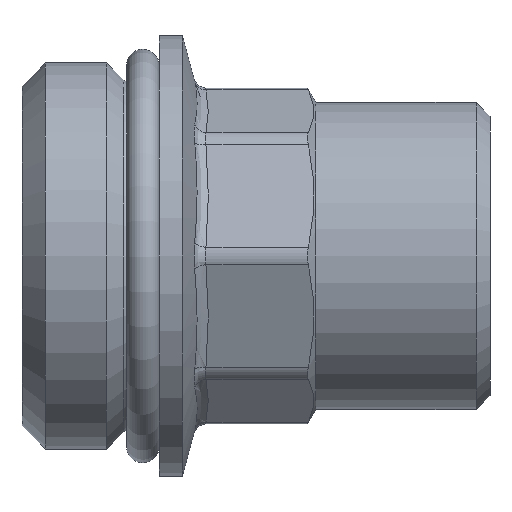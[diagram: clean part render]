
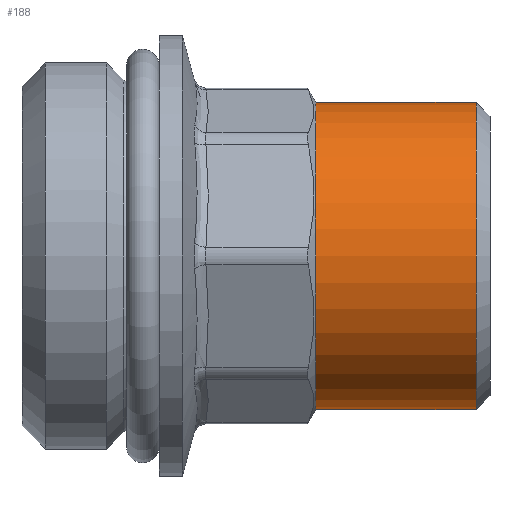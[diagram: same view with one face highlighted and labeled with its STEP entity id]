
A CAD part, left-side view. The second image highlights one B-rep face of the part: STEP entity #188.
In plain terms, the highlighted cylindrical face has radius 13.22 mm (diameter 26.441 mm), a full revolution.
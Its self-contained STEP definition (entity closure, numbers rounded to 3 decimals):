
#188=ADVANCED_FACE('',(#364,#366),#368,.T.);
#364=FACE_OUTER_BOUND('',#365,.T.);
#365=EDGE_LOOP('',(#1536));
#366=FACE_OUTER_BOUND('',#367,.T.);
#367=EDGE_LOOP('',(#1537));
#368=CYLINDRICAL_SURFACE('',#369,13.221);
#369=AXIS2_PLACEMENT_3D('',#370,#371,#372);
#370=CARTESIAN_POINT('',(0.,-11.5,0.));
#371=DIRECTION('',(0.,-1.,0.));
#372=DIRECTION('',(0.,0.,1.));
#1536=ORIENTED_EDGE('',*,*,#1734,.T.);
#1537=ORIENTED_EDGE('',*,*,#1731,.F.);
#1731=EDGE_CURVE('',#1843,#1843,#1844,.T.);
#1734=EDGE_CURVE('',#1849,#1849,#1850,.T.);
#1843=VERTEX_POINT('',#2045);
#1844=CIRCLE('',#2046,13.221);
#1849=VERTEX_POINT('',#2060);
#1850=CIRCLE('',#2061,13.221);
#2045=CARTESIAN_POINT('',(0.,-25.3,13.221));
#2046=AXIS2_PLACEMENT_3D('',#2047,#2048,#2049);
#2047=CARTESIAN_POINT('',(0.,-25.3,0.));
#2048=DIRECTION('',(0.,-1.,0.));
#2049=DIRECTION('',(0.,0.,1.));
#2060=CARTESIAN_POINT('',(0.,-11.5,13.221));
#2061=AXIS2_PLACEMENT_3D('',#2062,#2063,#2064);
#2062=CARTESIAN_POINT('',(0.,-11.5,0.));
#2063=DIRECTION('',(0.,-1.,0.));
#2064=DIRECTION('',(0.,0.,1.));
